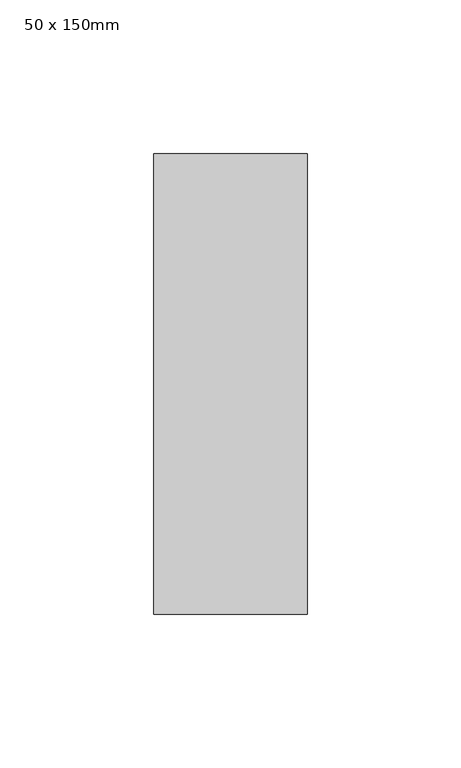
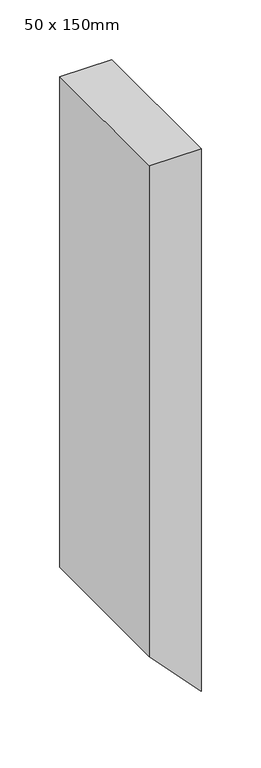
"""IFC4 building model written with IfcOpenShell, lengths in millimetres: member geometry, Прямоугольный импост : 50 x 150mm."""

from ifc_helpers import new_model, si_unit, frame, origin, place, context, project, spatial, polyline, outline, extrude, source, transform, mapped, element, save


def member_50_x_150mm_623742ee(model_context):
    return source(origin(), model_context, "Body", "SweptSolid", [
        extrude(outline(polyline([(0.0, 0.0), (0.0, -50.0), (-501.0557064, -50.0), (-553.8888889, 0.0), (0.0, 0.0)])), frame((0.0, -75.0, 0.0), z_axis=(0.0, 1.0, 0.0), x_axis=(0.0, 0.0, 1.0)), (0.0, 0.0, 1.0), 150.0),
    ])


if __name__ == "__main__":
    model = new_model("IFC4")
    model_context = context("Model", 3, world=origin())
    ifc_project = project(units=[si_unit("LENGTHUNIT", "METRE", prefix="MILLI")], contexts=[model_context])
    site = spatial("IfcSite", under=ifc_project)
    building = spatial("IfcBuilding", under=site)
    placement = place(None, origin())
    member_50_x_150mm_shape = member_50_x_150mm_623742ee(model_context)
    element("IfcMember", 1, ObjectType="Прямоугольный импост : 50 x 150mm", at=placement, inside=building, context=model_context, shape_type="MappedRepresentation", body=[
        mapped(member_50_x_150mm_shape, transform((0.0, 0.0, 0.0), x_axis=(1.0, 0.0, 0.0), y_axis=(0.0, 1.0, 0.0), z_axis=(0.0, 0.0, 1.0))),
    ])
    save(model, "model.ifc")
